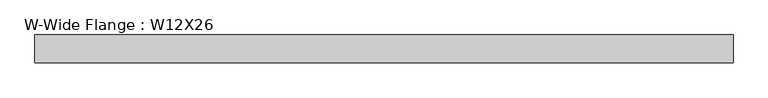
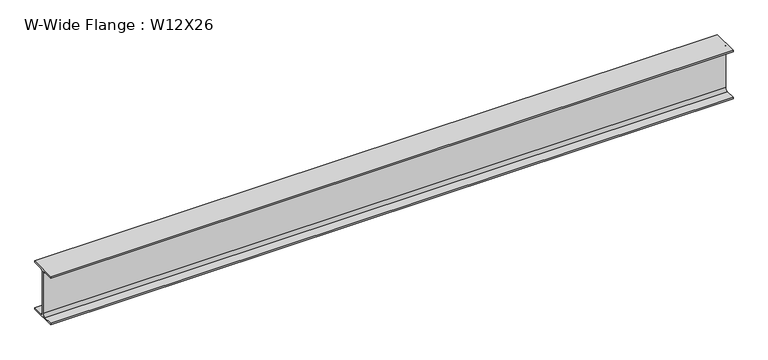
"""IFC4 building model written with IfcOpenShell, lengths in millimetres: beam geometry, W-Wide Flange : W12X26."""

import ifcopenshell
import ifcopenshell.guid

model = None  # the IFC model being written
_history = None  # IfcOwnerHistory: only IFC2X3 demands one
_inside = {}  # id of a spatial element -> (the spatial element, [elements in it])
_under = {}  # id of a project, library or spatial element -> (it, [spatial elements below it])
_declared = {}  # id of a project -> (the project, [libraries it declares])
_typed = {}  # id of a type object -> (the type object, [elements of that type])
_made_of = {}  # id of a material, layer set ... -> (it, [elements and type objects made of it])


def new_model(schema):
    """Start an empty IFC model of exactly this schema.

    Asked for "IFC4X3", IfcOpenShell would pick the latest addendum, in which some entities
    have other attributes; the version numbers below select the first issue.
    IFC2X3 requires an IfcOwnerHistory on every rooted entity: one is made here for all.
    """
    global model, _history
    if schema == "IFC4X3":
        model = ifcopenshell.file(schema_version=(4, 3, 0, 0))
    else:
        model = ifcopenshell.file(schema=schema)
    _inside.clear()
    _under.clear()
    _declared.clear()
    _typed.clear()
    _made_of.clear()
    _history = None
    if model.schema == "IFC2X3":
        org = make("IfcOrganization", Name="unknown")
        user = make(
            "IfcPersonAndOrganization",
            ThePerson=make("IfcPerson", FamilyName="unknown"),
            TheOrganization=org,
        )
        app = make(
            "IfcApplication",
            ApplicationDeveloper=org,
            Version="unknown",
            ApplicationFullName="unknown",
            ApplicationIdentifier="unknown",
        )
        _history = make(
            "IfcOwnerHistory",
            OwningUser=user,
            OwningApplication=app,
            ChangeAction="ADDED",
            CreationDate=0,
        )
    return model


def make(cls, **values):
    """One entity of the class cls with the attributes given. An attribute that is None is left unset."""
    return model.create_entity(
        cls, **{name: value for name, value in values.items() if value is not None}
    )


def rooted(cls, **values):
    """An entity with a GlobalId (a new one), such as an element, a storey or a relation."""
    return make(cls, GlobalId=ifcopenshell.guid.new(), OwnerHistory=_history, **values)


def si_unit(unit_type, name, prefix=None):
    """IfcSIUnit, for example si_unit("LENGTHUNIT", "METRE", prefix="MILLI")."""
    return make("IfcSIUnit", UnitType=unit_type, Prefix=prefix, Name=name)


def assignment(units):
    """IfcUnitAssignment: the units of a project."""
    return None if units is None else make("IfcUnitAssignment", Units=units)


def point(xyz):
    """IfcCartesianPoint."""
    return None if xyz is None else make("IfcCartesianPoint", Coordinates=xyz)


def direction(xyz):
    """IfcDirection."""
    return None if xyz is None else make("IfcDirection", DirectionRatios=xyz)


def frame(location, z_axis=None, x_axis=None):
    """IfcAxis2Placement3D, a coordinate frame: its origin and axes. An axis left out is left unset."""
    return make(
        "IfcAxis2Placement3D",
        Location=point(location),
        Axis=direction(z_axis),
        RefDirection=direction(x_axis),
    )


def frame_2d(location, x_axis=None):
    """IfcAxis2Placement2D, a coordinate frame in the plane: its origin and x axis."""
    return make(
        "IfcAxis2Placement2D", Location=point(location), RefDirection=direction(x_axis)
    )


def origin():
    """The frame at (0, 0, 0) with its axes left unset."""
    return frame((0.0, 0.0, 0.0))


def place(relative_to, where):
    """IfcLocalPlacement: puts the frame where relative to a parent placement (None: the world)."""
    return make(
        "IfcLocalPlacement", PlacementRelTo=relative_to, RelativePlacement=where
    )


def context(
    kind, dimensions, precision=None, world=None, true_north=None, identifier=None
):
    """IfcGeometricRepresentationContext, for example the 3D "Model" context."""
    return make(
        "IfcGeometricRepresentationContext",
        ContextIdentifier=identifier,
        ContextType=kind,
        CoordinateSpaceDimension=dimensions,
        Precision=precision,
        WorldCoordinateSystem=world,
        TrueNorth=true_north,
    )


def project(units=None, contexts=None):
    """IfcProject with its units and contexts."""
    return rooted(
        "IfcProject",
        Name="project",
        RepresentationContexts=contexts,
        UnitsInContext=assignment(units),
    )


def spatial(cls, under=None, at=None, **own):
    """A site, building, storey or space (cls), placed at a placement, below another one or the project."""
    s = rooted(cls, ObjectPlacement=at, **own)
    if under is not None:
        _under.setdefault(under.id(), (under, []))[1].append(s)
    return s


def polyline(points):
    """IfcPolyline through the points."""
    return make("IfcPolyline", Points=[point(p) for p in points])


def circle_curve(where, radius):
    """IfcCircle in the frame where."""
    return make("IfcCircle", Position=where, Radius=radius)


def trimmed(basis, trim1, trim2, sense, master):
    """IfcTrimmedCurve: the piece of a basis curve between two trims."""
    return make(
        "IfcTrimmedCurve",
        BasisCurve=basis,
        Trim1=trim1,
        Trim2=trim2,
        SenseAgreement=sense,
        MasterRepresentation=master,
    )


def segment(curve, same_sense, transition):
    """IfcCompositeCurveSegment."""
    return make(
        "IfcCompositeCurveSegment",
        Transition=transition,
        SameSense=same_sense,
        ParentCurve=curve,
    )


def composite_curve(segments, self_intersect=None):
    """IfcCompositeCurve: segments joined end to end."""
    return make("IfcCompositeCurve", Segments=segments, SelfIntersect=self_intersect)


def outline(outer, holes=None, kind="AREA"):
    """IfcArbitraryClosedProfileDef: a profile drawn as a closed curve; with holes, ...WithVoids."""
    if holes is None:
        return make("IfcArbitraryClosedProfileDef", ProfileType=kind, OuterCurve=outer)
    return make(
        "IfcArbitraryProfileDefWithVoids",
        ProfileType=kind,
        OuterCurve=outer,
        InnerCurves=holes,
    )


def extrude(swept, where, along, depth):
    """IfcExtrudedAreaSolid: the profile swept, set in the frame where, extruded along a direction by depth."""
    return make(
        "IfcExtrudedAreaSolid",
        SweptArea=swept,
        Position=where,
        ExtrudedDirection=direction(along),
        Depth=depth,
    )


def shape(context_of_items, identifier, shape_type, items):
    """IfcShapeRepresentation: the items that make up one representation, for example the "Body"."""
    return make(
        "IfcShapeRepresentation",
        ContextOfItems=context_of_items,
        RepresentationIdentifier=identifier,
        RepresentationType=shape_type,
        Items=items,
    )


def source(mapping_origin, context_of_items, identifier, shape_type, items):
    """IfcRepresentationMap: a shape defined once, which mapped items show again and again."""
    return make(
        "IfcRepresentationMap",
        MappingOrigin=mapping_origin,
        MappedRepresentation=shape(context_of_items, identifier, shape_type, items),
    )


def transform(
    local_origin,
    x_axis=None,
    y_axis=None,
    z_axis=None,
    scale=None,
    scale2=None,
    scale3=None,
    uniform=True,
):
    """IfcCartesianTransformationOperator3D, or its non-uniform kind. x_axis, y_axis, z_axis: its Axis1, 2, 3."""
    if uniform:
        return make(
            "IfcCartesianTransformationOperator3D",
            Axis1=direction(x_axis),
            Axis2=direction(y_axis),
            LocalOrigin=point(local_origin),
            Scale=scale,
            Axis3=direction(z_axis),
        )
    return make(
        "IfcCartesianTransformationOperator3DnonUniform",
        Axis1=direction(x_axis),
        Axis2=direction(y_axis),
        LocalOrigin=point(local_origin),
        Scale=scale,
        Axis3=direction(z_axis),
        Scale2=scale2,
        Scale3=scale3,
    )


def mapped(mapping_source, mapping_target):
    """IfcMappedItem: shows the shape of a source again, moved by a transform."""
    return make(
        "IfcMappedItem", MappingSource=mapping_source, MappingTarget=mapping_target
    )


def made_of(thing, what):
    """Note that an element or type object is made of a material, layer set ...; save() writes the relation."""
    if what is not None:
        _made_of.setdefault(what.id(), (what, []))[1].append(thing)
    return thing


def element(
    cls,
    number,
    at=None,
    inside=None,
    cuts=None,
    type_object=None,
    material=None,
    context=None,
    identifier="Body",
    shape_type=None,
    held_by="IfcProductDefinitionShape",
    body=None,
    shapes=None,
    **own,
):
    """One element of the class cls, such as IfcWall. Its Tag is "e" and its number.

    at: its placement. inside: the storey or other place that contains it. cuts: it is an
    opening in that element (IfcRelVoidsElement). A single representation is given by context,
    identifier, shape_type and body (its items); several are given by shapes. held_by: the class
    of the entity that holds the representations. save() writes the other relations.
    """
    e = rooted(cls, Tag="e%d" % number, ObjectPlacement=at, **own)
    if body is not None:
        shapes = [shape(context, identifier, shape_type, body)]
    if shapes is not None:
        e.Representation = make(held_by, Representations=shapes)
    if inside is not None:
        _inside.setdefault(inside.id(), (inside, []))[1].append(e)
    if cuts is not None:
        rooted(
            "IfcRelVoidsElement", RelatingBuildingElement=cuts, RelatedOpeningElement=e
        )
    if type_object is not None:
        _typed.setdefault(type_object.id(), (type_object, []))[1].append(e)
    return made_of(e, material)


def aggregate(whole, parts):
    """IfcRelAggregates: a whole, such as a stair, and the parts it consists of."""
    return rooted("IfcRelAggregates", RelatingObject=whole, RelatedObjects=parts)


def save(model, path):
    """Write the relations noted so far, then the file.

    IfcRelAggregates (storeys below a building ...), IfcRelContainedInSpatialStructure (elements
    in a storey), IfcRelDefinesByType, IfcRelAssociatesMaterial and IfcRelDeclares: one each for
    every whole, place, type object, material and project.
    """
    for whole, parts in _under.values():
        aggregate(whole, parts)
    for where, things in _inside.values():
        rooted(
            "IfcRelContainedInSpatialStructure",
            RelatedElements=things,
            RelatingStructure=where,
        )
    for kind, things in _typed.values():
        rooted("IfcRelDefinesByType", RelatedObjects=things, RelatingType=kind)
    for what, things in _made_of.values():
        rooted("IfcRelAssociatesMaterial", RelatedObjects=things, RelatingMaterial=what)
    for by, libraries in _declared.values():
        rooted("IfcRelDeclares", RelatingContext=by, RelatedDefinitions=libraries)
    model.write(path)


def w_wide_flange_w12x26_1ea5d3b6(model_context):
    return source(origin(), model_context, "Body", "SweptSolid", [
        extrude(outline(composite_curve([segment(polyline([(82.4011719, -145.5539063), (82.4011719, -155.178125), (-82.4011719, -155.178125), (-82.4011719, -145.5539063), (-20.2902344, -145.5539063)]), True, "CONTINUOUS"), segment(trimmed(circle_curve(frame_2d((-20.2902344, -128.190625)), 17.3632812), [point((-20.2902344, -145.5539063))], [point((-2.9269531, -128.190625))], True, "CARTESIAN"), True, "CONTINUOUS"), segment(polyline([(-2.9269531, -128.190625), (-2.9269531, 128.190625)]), True, "CONTINUOUS"), segment(trimmed(circle_curve(frame_2d((-20.2902344, 128.190625)), 17.3632812), [point((-2.9269531, 128.190625))], [point((-20.2902344, 145.5539062))], True, "CARTESIAN"), True, "CONTINUOUS"), segment(polyline([(-20.2902344, 145.5539062), (-82.4011719, 145.5539062), (-82.4011719, 155.178125), (82.4011719, 155.178125), (82.4011719, 145.5539062), (20.2902344, 145.5539062)]), True, "CONTINUOUS"), segment(trimmed(circle_curve(frame_2d((20.2902344, 128.190625)), 17.3632812), [point((20.2902344, 145.5539062))], [point((2.9269531, 128.190625))], True, "CARTESIAN"), True, "CONTINUOUS"), segment(polyline([(2.9269531, 128.190625), (2.9269531, -128.190625)]), True, "CONTINUOUS"), segment(trimmed(circle_curve(frame_2d((20.2902344, -128.190625)), 17.3632812), [point((2.9269531, -128.190625))], [point((20.2902344, -145.5539063))], True, "CARTESIAN"), True, "CONTINUOUS"), segment(polyline([(20.2902344, -145.5539063), (82.4011719, -145.5539063)]), True, "CONTINUOUS")], self_intersect=False)), frame((-2070.1, 0.0, 0.0), z_axis=(1.0, 0.0, 0.0), x_axis=(0.0, 1.0, 0.0)), (0.0, 0.0, 1.0), 4140.2),
    ])


if __name__ == "__main__":
    model = new_model("IFC4")
    model_context = context("Model", 3, world=origin())
    ifc_project = project(units=[si_unit("LENGTHUNIT", "METRE", prefix="MILLI")], contexts=[model_context])
    site = spatial("IfcSite", under=ifc_project)
    building = spatial("IfcBuilding", under=site)
    placement = place(None, origin())
    w_wide_flange_w12x26_shape = w_wide_flange_w12x26_1ea5d3b6(model_context)
    element("IfcBeam", 1, ObjectType="W-Wide Flange : W12X26", at=placement, inside=building, context=model_context, shape_type="MappedRepresentation", body=[
        mapped(w_wide_flange_w12x26_shape, transform((0.0, 0.0, 0.0), x_axis=(1.0, 0.0, 0.0), y_axis=(0.0, 1.0, 0.0), z_axis=(0.0, 0.0, 1.0))),
    ])
    save(model, "model.ifc")
